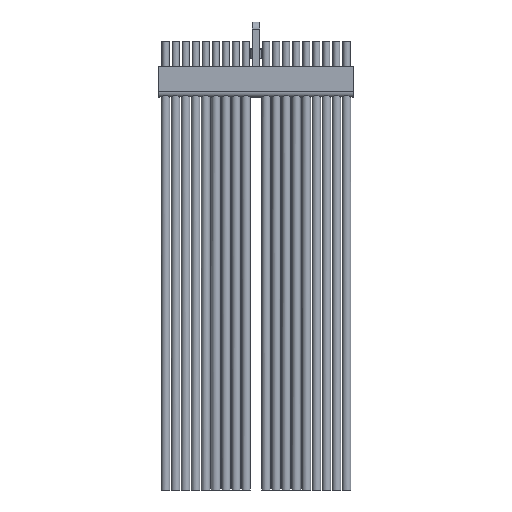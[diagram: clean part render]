
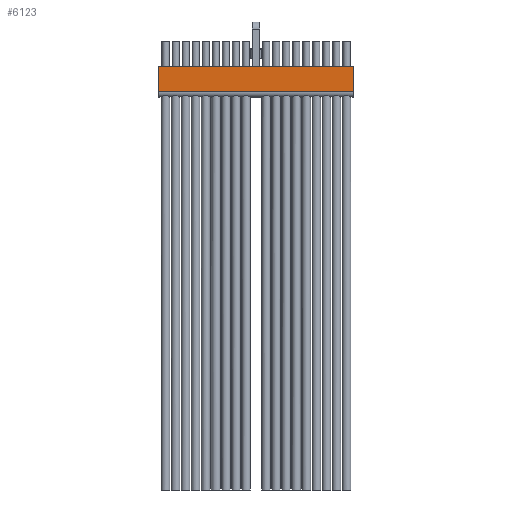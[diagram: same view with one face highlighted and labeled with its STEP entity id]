
A CAD part, front view. The second image highlights one B-rep face of the part: STEP entity #6123.
In plain terms, the highlighted planar face has unit normal (0, -1, 0).
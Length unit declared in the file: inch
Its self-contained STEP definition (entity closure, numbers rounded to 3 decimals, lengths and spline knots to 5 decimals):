
#142 = CARTESIAN_POINT ( 'NONE',  ( 0.485, -0.0375, -0.0625 ) ) ;
#1104 = DIRECTION ( 'NONE',  ( 0., 1., 0. ) ) ;
#1190 = CARTESIAN_POINT ( 'NONE',  ( -0.485, -0.0375, -0.0625 ) ) ;
#1483 = LINE ( 'NONE', #16722, #13983 ) ;
#3222 = VERTEX_POINT ( 'NONE', #1190 ) ;
#3840 = CARTESIAN_POINT ( 'NONE',  ( 0.485, -0.0375, 0.0625 ) ) ;
#4870 = DIRECTION ( 'NONE',  ( 0., 0., -1. ) ) ;
#5695 = ORIENTED_EDGE ( 'NONE', *, *, #21139, .F. ) ;
#6123 = ADVANCED_FACE ( 'NONE', ( #7164 ), #17341, .F. ) ;
#7018 = VERTEX_POINT ( 'NONE', #11833 ) ;
#7164 = FACE_OUTER_BOUND ( 'NONE', #18406, .T. ) ;
#7873 = ORIENTED_EDGE ( 'NONE', *, *, #19501, .T. ) ;
#8872 = EDGE_CURVE ( 'NONE', #8887, #7018, #12939, .T. ) ;
#8887 = VERTEX_POINT ( 'NONE', #3840 ) ;
#10323 = DIRECTION ( 'NONE',  ( -1., 0., 0. ) ) ;
#10377 = DIRECTION ( 'NONE',  ( -1., 0., 0. ) ) ;
#10876 = CARTESIAN_POINT ( 'NONE',  ( 2.0625, -0.0375, 0.0625 ) ) ;
#11833 = CARTESIAN_POINT ( 'NONE',  ( -0.485, -0.0375, 0.0625 ) ) ;
#12092 = VECTOR ( 'NONE', #15817, 39.37008 ) ;
#12398 = ORIENTED_EDGE ( 'NONE', *, *, #16799, .F. ) ;
#12515 = DIRECTION ( 'NONE',  ( 0., 0., 1. ) ) ;
#12939 = LINE ( 'NONE', #20084, #21105 ) ;
#13134 = VECTOR ( 'NONE', #4870, 39.37008 ) ;
#13894 = VERTEX_POINT ( 'NONE', #142 ) ;
#13983 = VECTOR ( 'NONE', #10377, 39.37008 ) ;
#14177 = CARTESIAN_POINT ( 'NONE',  ( -0.485, -0.0375, 0.0625 ) ) ;
#15817 = DIRECTION ( 'NONE',  ( 0., 0., -1. ) ) ;
#16665 = AXIS2_PLACEMENT_3D ( 'NONE', #10876, #1104, #12515 ) ;
#16722 = CARTESIAN_POINT ( 'NONE',  ( 2.0625, -0.0375, -0.0625 ) ) ;
#16799 = EDGE_CURVE ( 'NONE', #13894, #3222, #1483, .T. ) ;
#17341 = PLANE ( 'NONE',  #16665 ) ;
#17452 = LINE ( 'NONE', #19559, #13134 ) ;
#18406 = EDGE_LOOP ( 'NONE', ( #5695, #19324, #7873, #12398 ) ) ;
#19324 = ORIENTED_EDGE ( 'NONE', *, *, #8872, .T. ) ;
#19501 = EDGE_CURVE ( 'NONE', #7018, #3222, #20257, .T. ) ;
#19559 = CARTESIAN_POINT ( 'NONE',  ( 0.485, -0.0375, 0.0625 ) ) ;
#20084 = CARTESIAN_POINT ( 'NONE',  ( 2.0625, -0.0375, 0.0625 ) ) ;
#20257 = LINE ( 'NONE', #14177, #12092 ) ;
#21105 = VECTOR ( 'NONE', #10323, 39.37008 ) ;
#21139 = EDGE_CURVE ( 'NONE', #8887, #13894, #17452, .T. ) ;
